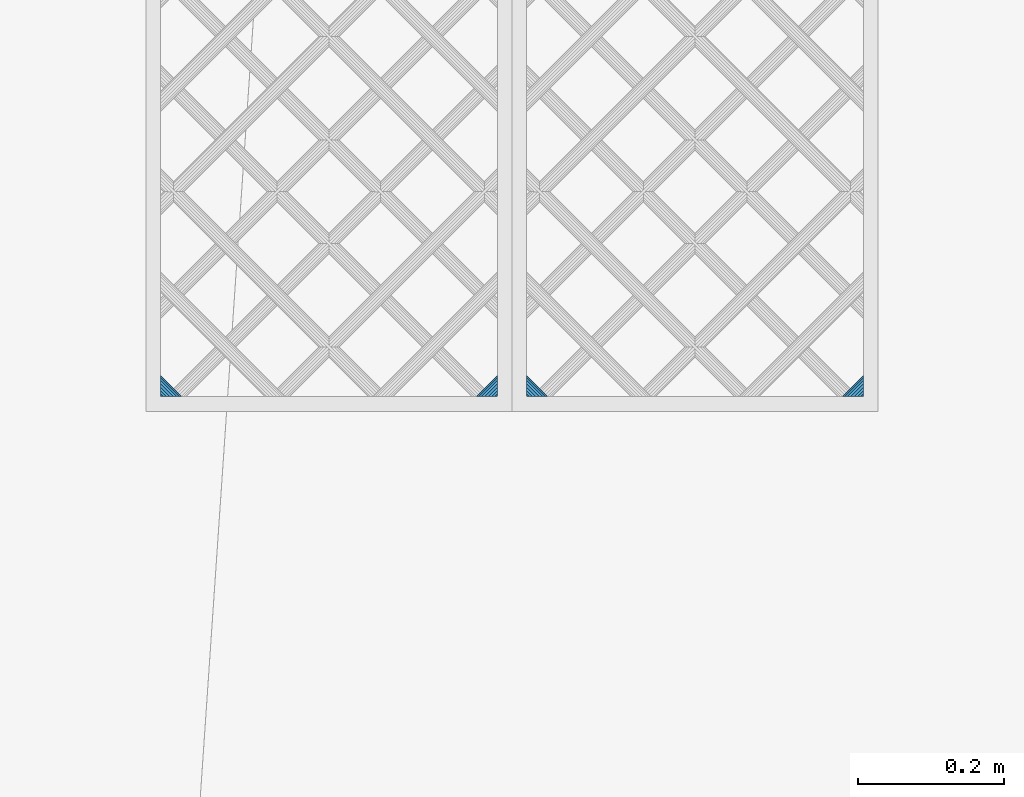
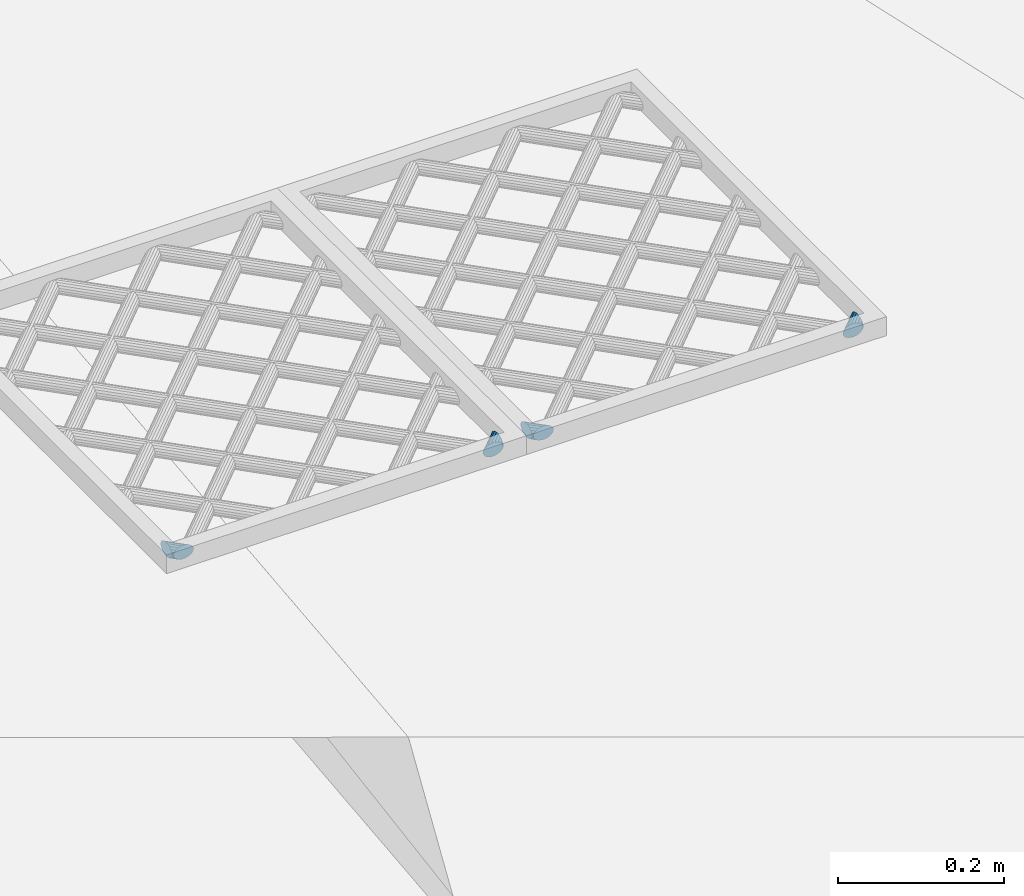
# One storey, part 86 of 133: 4 members, 2 elements without a shape of their own.
"""IFC2X3 building model written with IfcOpenShell, lengths in centimetres."""

from ifc_helpers import new_model, entity, si_unit, converted_unit, direction, frame, origin, origin_with_axes, place, context, subcontext, project, spatial, faceted_brep, material, type_object, element, aggregate, save


model = new_model("IFC2X3")

# Units and contexts
model_context = context("Model", 3, precision=0.0001, world=origin(), true_north=direction((0.225632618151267, 0.974212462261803, 0.0)))
body_context = subcontext(model_context, "Body", "Model", "MODEL_VIEW")
ifc_project = project(units=[si_unit("LENGTHUNIT", "METRE", prefix="CENTI"), si_unit("AREAUNIT", "SQUARE_METRE", prefix="CENTI"), si_unit("VOLUMEUNIT", "CUBIC_METRE", prefix="CENTI"), converted_unit("PLANEANGLEUNIT", "DEGREE", entity("IfcRatioMeasure", 0.0174532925), si_unit("PLANEANGLEUNIT", "RADIAN"), dimensions=[0, 0, 0, 0, 0, 0, 0])], contexts=[model_context])

# Site, building, storey
site_placement = place(None, origin_with_axes())
site = spatial("IfcSite", under=ifc_project, at=site_placement, Name="Default Site", CompositionType="ELEMENT")
building_placement = place(site_placement, origin_with_axes())
building = spatial("IfcBuilding", under=site, at=building_placement, Name="Default Building", CompositionType="ELEMENT")
storey_placement = place(building_placement, frame((0.0, 0.0, -291.400371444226), z_axis=(0.0, 0.0, 1.0), x_axis=(1.0, 0.0, 0.0)))
storey = spatial("IfcBuildingStorey", under=building, at=storey_placement, Name="Rez-de-Jardin", CompositionType="ELEMENT", Elevation=-291.400371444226)

# Assembly, members
building_element_proxy_type = type_object("IfcBuildingElementProxyType", Name="Type Object", PredefinedType="NOTDEFINED")
assembly_1_placement = place(storey_placement, frame((-26.2717802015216, 1298.33524038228, 113.0), z_axis=(0.0, 1.0, -2.38697950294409e-15), x_axis=(1.0, 0.0, 0.0)))
assembly_1 = element("IfcElementAssembly", 1, at=assembly_1_placement, inside=storey, type_object=building_element_proxy_type, Name="Panneau 326484", ObjectType="Precast panel", PredefinedType="USERDEFINED")
ifc_material = material(Name="Aluminium satiné")
member_1_placement = place(assembly_1_placement, frame((47.999998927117, 0.342020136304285, 2.17359922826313), z_axis=(0.999999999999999, 0.0, 0.0), x_axis=(0.0, -0.774596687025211, -0.632455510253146)))
member_1 = element("IfcMember", 2, at=member_1_placement, material=ifc_material, Name="4294966894", context=body_context, shape_type="Brep", body=[
    faceted_brep([(2.48065457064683e-13, -8.11850586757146e-14, 0.0), (-0.388289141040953, -8.04911692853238e-14, 0.0), (-0.799165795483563, -0.150249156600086, 0.0), (-1.18307220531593, -0.432625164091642, 0.0), (-1.49370349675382, -0.813069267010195, 0.0), (-1.69359292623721, -1.24569426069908, 0.0), (-1.75863119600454, -1.67831950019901, 0.0), (-1.68097334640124, -2.05876360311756, 0.0), (-1.46998602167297, -2.34113928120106, 0.0), (-1.15111801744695, -2.49138864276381, 0.0), (-0.762828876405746, -2.49138864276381, 0.0), (-0.351952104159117, -2.34113934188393, 0.0), (0.0319541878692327, -2.05876347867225, 0.0), (0.342585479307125, -1.67831937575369, 0.0), (0.542475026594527, -1.24569423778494, 0.0), (0.607513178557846, -0.813069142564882, 0.0), (0.529855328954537, -0.432625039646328, 0.0), (0.318868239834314, -0.150249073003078, 0.0), (0.374721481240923, -0.0818430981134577, -0.0883102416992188), (0.639649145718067, -0.298155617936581, -0.173598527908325), (0.872622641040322, -0.488377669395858, -0.419172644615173), (1.04554189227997, -0.629565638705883, -0.79541802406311), (1.13755032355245, -0.704690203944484, -1.25694870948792), (1.13755032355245, -0.704690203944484, -1.74809992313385), (1.04554189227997, -0.629565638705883, -2.20963060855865), (0.872622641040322, -0.488377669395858, -2.58587598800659), (0.639649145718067, -0.298155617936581, -2.83145010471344), (0.374721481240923, -0.0818430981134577, -2.91673839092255), (0.109793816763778, 0.134469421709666, -2.83145010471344), (-0.123179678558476, 0.324691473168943, -2.58587598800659), (-0.296098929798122, 0.465879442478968, -2.20963060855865), (-0.388107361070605, 0.541004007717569, -1.74809992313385), (-0.388107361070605, 0.541004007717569, -1.25694870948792), (-0.296098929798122, 0.465879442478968, -0.79541802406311), (-0.123179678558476, 0.324691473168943, -0.419172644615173), (0.109793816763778, 0.134469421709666, -0.173598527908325), (0.529855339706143, -0.432625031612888, 1.30225883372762e-08), (0.639648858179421, -0.29815583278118, -0.173598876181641), (0.374720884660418, -0.081843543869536, -0.0883109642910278), (0.607513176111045, -0.813069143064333, -1.93436607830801e-09), (0.872621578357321, -0.488377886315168, -0.419173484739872), (0.639648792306, -0.298155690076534, -0.173598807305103), (0.542475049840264, -1.24569424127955, 1.19949754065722e-08), (1.04554169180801, -0.629565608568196, -0.795418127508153), (0.872621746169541, -0.488377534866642, -0.419173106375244), (0.342585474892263, -1.67831937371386, -1.21215262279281e-09), (1.13755008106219, -0.704690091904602, -1.25694877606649), (1.04554177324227, -0.62956558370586, -0.795418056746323), (1.13755032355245, -0.704690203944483, -1.74809992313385), (1.13755032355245, -0.704690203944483, -1.25694870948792), (-0.35195207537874, -2.3411393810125, -1.21065570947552e-08), (1.04554212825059, -0.629565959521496, -2.20963070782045), (1.13755047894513, -0.704690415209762, -1.74809998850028), (-0.762828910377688, -2.49138854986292, 5.04749811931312e-08), (0.87262260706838, -0.488377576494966, -2.58587593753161), (1.04554209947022, -0.629566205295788, -2.2096309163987), (-1.15111801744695, -2.49138864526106, -1.93436629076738e-09), (0.639649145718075, -0.298156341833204, -2.83145066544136), (-1.46998609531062, -2.34113943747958, -1.6762536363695e-07), (0.374721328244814, -0.0818434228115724, -2.91673873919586), (0.639648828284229, -0.298156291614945, -2.83145082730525), (-1.68097320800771, -2.05876349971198, 1.6762536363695e-07), (0.109793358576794, 0.134469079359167, -2.83145065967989), (0.374721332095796, -0.0818432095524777, -2.9167385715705), (-1.75863119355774, -1.67831949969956, 1.93436650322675e-09), (-0.123179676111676, 0.324691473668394, -2.58587598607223), (0.109793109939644, 0.13446927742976, -2.831450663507), (-1.69359302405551, -1.24569424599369, -5.04749813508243e-08), (-0.296099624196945, 0.465879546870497, -2.20963096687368), (-0.123179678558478, 0.324691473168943, -2.58587598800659), (-1.49370345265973, -0.813069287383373, 1.2106556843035e-08), (-0.388107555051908, 0.541004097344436, -1.74809997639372), (-0.296099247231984, 0.465879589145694, -2.20963069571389), (-0.388107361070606, 0.541004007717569, -1.25694870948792), (-0.388107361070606, 0.541004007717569, -1.74809992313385), (-0.799165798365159, -0.150249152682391, 1.21215254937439e-09), (-0.296098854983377, 0.465879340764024, -0.795418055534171), (-0.388107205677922, 0.54100379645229, -1.25694877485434), (-0.388289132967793, -2.20772336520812e-08, -1.19949752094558e-08), (-0.123179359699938, 0.324690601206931, -0.41917311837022), (-0.296098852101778, 0.465879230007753, -0.795418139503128), (2.48039759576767e-13, 2.4971744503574e-09, 1.93436592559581e-09), (0.109793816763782, 0.134469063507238, -0.173598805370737), (-0.123179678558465, 0.324690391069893, -0.419173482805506), (0.318868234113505, -0.150249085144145, -1.30225882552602e-08), (0.374721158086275, -0.0818437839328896, -0.0883109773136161), (0.109793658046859, 0.134469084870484, -0.17359888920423)], [[[0, 1, 2, 3, 4, 5, 6, 7, 8, 9, 10, 11, 12, 13, 14, 15, 16, 17]], [[18, 19, 20, 21, 22, 23, 24, 25, 26, 27, 28, 29, 30, 31, 32, 33, 34, 35]], [[17, 36, 37, 38]], [[16, 39, 40, 41]], [[15, 42, 43, 44]], [[14, 45, 46, 47]], [[13, 12, 48, 49]], [[12, 50, 51, 52]], [[11, 53, 54, 55]], [[10, 56, 57, 25]], [[9, 58, 59, 60]], [[8, 61, 62, 63]], [[7, 64, 65, 66]], [[6, 67, 68, 69]], [[5, 70, 71, 72]], [[4, 3, 73, 74]], [[3, 75, 76, 77]], [[2, 78, 79, 80]], [[1, 81, 82, 83]], [[0, 84, 85, 86]]]),
])
member_2_placement = place(assembly_1_placement, frame((2.17359922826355, 0.342020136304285, 1.99999995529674), z_axis=(1.16937634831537e-15, 1.43218776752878e-15, -1.0), x_axis=(-0.632455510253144, -0.774596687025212, -1.84894641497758e-15)))
member_2 = element("IfcMember", 3, at=member_2_placement, material=ifc_material, Name="4294966886", context=body_context, shape_type="Brep", body=[
    faceted_brep([(3.81639164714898e-15, -1.87350135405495e-14, 1.73472347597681e-15), (-0.388289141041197, -1.87350135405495e-14, 2.45264929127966e-15), (-0.799165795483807, -0.150249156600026, 3.2123382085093e-15), (-1.18307220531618, -0.432625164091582, 3.92216058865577e-15), (-1.49370349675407, -0.813069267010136, 4.49650120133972e-15), (-1.69359292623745, -1.24569426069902, 4.86608604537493e-15), (-1.75863119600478, -1.67831950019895, 4.9863383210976e-15), (-1.68097334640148, -2.0587636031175, 4.84275311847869e-15), (-1.46998602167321, -2.341139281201, 4.45264886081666e-15), (-1.15111801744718, -2.49138864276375, 3.86307900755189e-15), (-0.762828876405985, -2.49138864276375, 3.14515319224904e-15), (-0.351952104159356, -2.34113934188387, 2.38546405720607e-15), (0.0319541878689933, -2.05876347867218, 1.67564189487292e-15), (0.342585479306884, -1.67831937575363, 1.10130128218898e-15), (0.542475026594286, -1.24569423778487, 7.31716220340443e-16), (0.607513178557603, -0.813069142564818, 6.11464162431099e-16), (0.529855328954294, -0.432625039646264, 7.55049365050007e-16), (0.31886823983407, -0.150249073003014, 1.1451531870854e-15), (0.374721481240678, -0.0818430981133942, -0.0883117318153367), (0.639649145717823, -0.298155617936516, -0.173599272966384), (0.872622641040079, -0.488377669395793, -0.419174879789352), (1.04554189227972, -0.629565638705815, -0.795418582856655), (1.13755032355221, -0.704690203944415, -1.25694982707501), (1.13755032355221, -0.704690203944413, -1.74810104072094), (1.04554189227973, -0.629565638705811, -2.20963209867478), (0.87262264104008, -0.488377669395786, -2.58587598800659), (0.639649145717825, -0.298155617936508, -2.83145159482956), (0.374721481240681, -0.0818430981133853, -2.91673876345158), (0.109793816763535, 0.134469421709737, -2.83145159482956), (-0.12317967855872, 0.324691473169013, -2.58587598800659), (-0.296098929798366, 0.465879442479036, -2.20963209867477), (-0.38810736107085, 0.541004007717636, -1.74810104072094), (-0.38810736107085, 0.541004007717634, -1.256949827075), (-0.296098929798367, 0.465879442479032, -0.795418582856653), (-0.123179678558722, 0.324691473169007, -0.41917487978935), (0.109793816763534, 0.134469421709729, -0.173599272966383), (0.31886823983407, -0.150249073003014, 1.38777878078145e-15), (0.529855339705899, -0.432625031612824, 1.30225894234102e-08), (0.639649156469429, -0.298155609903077, -0.173599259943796), (0.374721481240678, -0.0818430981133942, -0.0883117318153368), (0.529855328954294, -0.432625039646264, 1.04083408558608e-15), (0.607513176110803, -0.813069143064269, -1.93436525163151e-09), (0.872622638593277, -0.488377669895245, -0.419174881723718), (0.607513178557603, -0.813069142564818, 6.93889390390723e-16), (0.542475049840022, -1.24569424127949, 1.19949761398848e-08), (1.04554191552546, -0.629565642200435, -0.79541857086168), (0.872622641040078, -0.488377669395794, -0.419174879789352), (0.542475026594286, -1.24569423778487, 6.93889390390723e-16), (0.342585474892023, -1.67831937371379, -1.21215119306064e-09), (1.13755031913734, -0.704690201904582, -1.25694982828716), (1.04554189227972, -0.629565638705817, -0.795418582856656), (0.342585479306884, -1.67831937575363, 1.38777878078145e-15), (0.0319541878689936, -2.05876347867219, 2.08166817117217e-15), (1.1375503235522, -0.704690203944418, -1.74810104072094), (1.13755032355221, -0.704690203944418, -1.25694982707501), (0.0319541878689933, -2.05876347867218, 2.08166817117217e-15), (-0.351952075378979, -2.34113938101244, -1.21065545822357e-08), (1.0455419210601, -0.629565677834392, -2.20963211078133), (-0.351952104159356, -2.34113934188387, 2.42861286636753e-15), (-0.762828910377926, -2.49138854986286, 5.04749843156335e-08), (0.872622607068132, -0.488377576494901, -2.58587593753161), (1.04554189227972, -0.629565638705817, -2.20963209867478), (-0.762828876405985, -2.49138864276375, 3.12250225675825e-15), (-1.15111801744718, -2.491388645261, -1.93436191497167e-09), (0.639649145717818, -0.298155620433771, -2.83145159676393), (0.872622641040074, -0.488377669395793, -2.58587598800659), (-1.15111801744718, -2.49138864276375, 4.16333634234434e-15), (-1.46998609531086, -2.34113943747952, -1.67625359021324e-07), (0.374721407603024, -0.0818432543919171, -2.91673893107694), (0.639649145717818, -0.298155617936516, -2.83145159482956), (-1.46998602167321, -2.341139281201, 4.85722573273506e-15), (-1.68097320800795, -2.05876349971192, 1.67625368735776e-07), (0.109793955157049, 0.134469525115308, -2.83145142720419), (0.374721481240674, -0.081843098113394, -2.91673876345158), (-1.68097334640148, -2.0587636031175, 4.85722573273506e-15), (-1.75863119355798, -1.6783194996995, 1.93437128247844e-09), (-0.123179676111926, 0.324691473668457, -2.58587598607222), (0.109793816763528, 0.134469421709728, -2.83145159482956), (-1.75863119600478, -1.67831950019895, 5.20417042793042e-15), (-1.69359302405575, -1.24569424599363, -5.04749759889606e-08), (-0.296099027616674, 0.465879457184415, -2.20963214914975), (-0.123179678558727, 0.324691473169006, -2.58587598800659), (-1.69359292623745, -1.24569426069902, 5.20417042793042e-15), (-1.49370345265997, -0.813069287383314, 1.2106561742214e-08), (-0.388107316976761, 0.541003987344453, -1.74810102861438), (-0.296098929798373, 0.46587944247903, -2.20963209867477), (-1.49370349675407, -0.813069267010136, 4.85722573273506e-15), (-1.18307220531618, -0.432625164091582, 4.16333634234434e-15), (-0.388107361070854, 0.541004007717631, -1.256949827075), (-0.388107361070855, 0.541004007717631, -1.74810104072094), (-0.799165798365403, -0.15024915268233, 1.2121561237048e-09), (-0.296098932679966, 0.465879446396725, -0.7954185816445), (-0.799165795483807, -0.150249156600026, 3.46944695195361e-15), (-0.388289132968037, -2.20771720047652e-08, -1.19949724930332e-08), (-0.123179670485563, 0.324691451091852, -0.419174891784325), (-0.296098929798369, 0.46587944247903, -0.795418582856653), (-0.388289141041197, -1.87350135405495e-14, 2.77555756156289e-15), (3.7906941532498e-15, 2.49723722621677e-09, 1.93436791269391e-09), (0.109793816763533, 0.134469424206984, -0.173599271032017), (-0.123179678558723, 0.324691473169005, -0.41917487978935), (0.318868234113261, -0.150249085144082, -1.30225870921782e-08), (0.374721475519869, -0.081843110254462, -0.0883117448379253), (0.109793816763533, 0.134469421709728, -0.173599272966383)], [[[0, 1, 2, 3, 4, 5, 6, 7, 8, 9, 10, 11, 12, 13, 14, 15, 16, 17]], [[18, 19, 20, 21, 22, 23, 24, 25, 26, 27, 28, 29, 30, 31, 32, 33, 34, 35]], [[36, 37, 38, 39]], [[40, 41, 42, 19]], [[43, 44, 45, 46]], [[47, 48, 49, 50]], [[51, 52, 53, 54]], [[55, 56, 57, 53]], [[58, 59, 60, 61]], [[62, 63, 64, 65]], [[66, 67, 68, 69]], [[70, 71, 72, 73]], [[74, 75, 76, 77]], [[78, 79, 80, 81]], [[82, 83, 84, 85]], [[86, 87, 88, 89]], [[87, 90, 91, 88]], [[92, 93, 94, 95]], [[96, 97, 98, 99]], [[0, 100, 101, 102]]]),
])
aggregate(assembly_1, [member_1, member_2])

assembly_2_placement = place(storey_placement, frame((23.728219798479, 1298.33524038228, 113.0), z_axis=(0.0, 1.0, -2.38697950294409e-15), x_axis=(1.0, 0.0, 0.0)))
assembly_2 = element("IfcElementAssembly", 4, at=assembly_2_placement, inside=storey, type_object=building_element_proxy_type, Name="Panneau 326485", ObjectType="Precast panel", PredefinedType="USERDEFINED")
member_3_placement = place(assembly_2_placement, frame((47.9999989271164, 0.3420201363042, 2.1735992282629), z_axis=(0.999999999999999, 0.0, 0.0), x_axis=(0.0, -0.774596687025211, -0.632455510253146)))
member_3 = element("IfcMember", 5, at=member_3_placement, material=ifc_material, Name="4294966877", context=body_context, shape_type="Brep", body=[
    faceted_brep([(7.04297731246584e-14, -8.11850586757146e-14, 0.0), (-0.38828914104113, -8.04911692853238e-14, 0.0), (-0.79916579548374, -0.150249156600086, 0.0), (-1.18307220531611, -0.432625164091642, 0.0), (-1.493703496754, -0.813069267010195, 0.0), (-1.69359292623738, -1.24569426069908, 0.0), (-1.75863119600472, -1.67831950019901, 0.0), (-1.68097334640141, -2.05876360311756, 0.0), (-1.46998602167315, -2.34113928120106, 0.0), (-1.15111801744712, -2.49138864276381, 0.0), (-0.762828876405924, -2.49138864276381, 0.0), (-0.351952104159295, -2.34113934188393, 0.0), (0.031954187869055, -2.05876347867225, 0.0), (0.342585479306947, -1.67831937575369, 0.0), (0.54247502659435, -1.24569423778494, 0.0), (0.607513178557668, -0.813069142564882, 0.0), (0.529855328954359, -0.432625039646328, 0.0), (0.318868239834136, -0.150249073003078, 0.0), (0.374721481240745, -0.0818430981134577, -0.0883102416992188), (0.639649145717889, -0.298155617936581, -0.173598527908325), (0.872622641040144, -0.488377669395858, -0.419172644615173), (1.04554189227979, -0.629565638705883, -0.79541802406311), (1.13755032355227, -0.704690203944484, -1.25694870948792), (1.13755032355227, -0.704690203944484, -1.74809992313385), (1.04554189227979, -0.629565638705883, -2.20963060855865), (0.872622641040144, -0.488377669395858, -2.58587598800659), (0.639649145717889, -0.298155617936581, -2.83145010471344), (0.374721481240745, -0.0818430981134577, -2.91673839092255), (0.109793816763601, 0.134469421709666, -2.83145010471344), (-0.123179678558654, 0.324691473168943, -2.58587598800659), (-0.2960989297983, 0.465879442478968, -2.20963060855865), (-0.388107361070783, 0.541004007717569, -1.74809992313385), (-0.388107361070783, 0.541004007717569, -1.25694870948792), (-0.2960989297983, 0.465879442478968, -0.79541802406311), (-0.123179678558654, 0.324691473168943, -0.419172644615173), (0.109793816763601, 0.134469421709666, -0.173598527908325), (0.529855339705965, -0.432625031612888, 1.30225883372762e-08), (0.639648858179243, -0.29815583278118, -0.173598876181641), (0.374720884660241, -0.081843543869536, -0.0883109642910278), (0.607513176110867, -0.813069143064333, -1.93436602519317e-09), (0.872621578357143, -0.488377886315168, -0.419173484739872), (0.639648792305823, -0.298155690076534, -0.173598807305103), (0.542475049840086, -1.24569424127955, 1.19949754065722e-08), (1.04554169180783, -0.629565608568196, -0.795418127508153), (0.872621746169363, -0.488377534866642, -0.419173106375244), (0.342585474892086, -1.67831937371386, -1.21215262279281e-09), (1.13755008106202, -0.704690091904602, -1.25694877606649), (1.04554177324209, -0.62956558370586, -0.795418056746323), (1.13755032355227, -0.704690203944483, -1.74809992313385), (1.13755032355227, -0.704690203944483, -1.25694870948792), (-0.351952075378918, -2.3411393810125, -1.21065570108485e-08), (1.04554212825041, -0.629565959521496, -2.20963070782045), (1.13755047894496, -0.704690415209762, -1.74809998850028), (-0.762828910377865, -2.49138854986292, 5.04749813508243e-08), (0.872622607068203, -0.488377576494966, -2.58587593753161), (1.04554209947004, -0.629566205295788, -2.2096309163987), (-1.15111801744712, -2.49138864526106, -1.93436629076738e-09), (0.639649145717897, -0.298156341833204, -2.83145066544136), (-1.4699860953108, -2.34113943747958, -1.6762536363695e-07), (0.374721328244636, -0.0818434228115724, -2.91673873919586), (0.639648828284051, -0.298156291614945, -2.83145082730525), (-1.68097320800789, -2.05876349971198, 1.6762536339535e-07), (0.109793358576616, 0.134469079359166, -2.83145065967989), (0.374721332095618, -0.0818432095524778, -2.9167385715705), (-1.75863119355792, -1.67831949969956, 1.93436650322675e-09), (-0.123179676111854, 0.324691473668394, -2.58587598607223), (0.109793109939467, 0.13446927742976, -2.831450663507), (-1.69359302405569, -1.24569424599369, -5.04749813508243e-08), (-0.296099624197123, 0.465879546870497, -2.20963096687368), (-0.123179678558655, 0.324691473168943, -2.58587598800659), (-1.49370345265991, -0.813069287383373, 1.2106556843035e-08), (-0.388107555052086, 0.541004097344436, -1.74809997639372), (-0.296099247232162, 0.465879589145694, -2.20963069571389), (-0.799165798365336, -0.150249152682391, 1.21215254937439e-09), (-0.296098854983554, 0.465879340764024, -0.795418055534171), (-0.388107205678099, 0.54100379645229, -1.25694877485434), (-0.388289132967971, -2.20772336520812e-08, -1.19949752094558e-08), (-0.123179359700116, 0.324690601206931, -0.41917311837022), (-0.296098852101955, 0.465879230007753, -0.795418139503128), (7.04040756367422e-14, 2.4971744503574e-09, 1.93436592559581e-09), (0.109793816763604, 0.134469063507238, -0.173598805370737), (-0.123179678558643, 0.324690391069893, -0.419173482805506), (0.318868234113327, -0.150249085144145, -1.30225882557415e-08), (0.374721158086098, -0.0818437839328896, -0.0883109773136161), (0.109793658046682, 0.134469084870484, -0.17359888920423)], [[[0, 1, 2, 3, 4, 5, 6, 7, 8, 9, 10, 11, 12, 13, 14, 15, 16, 17]], [[18, 19, 20, 21, 22, 23, 24, 25, 26, 27, 28, 29, 30, 31, 32, 33, 34, 35]], [[17, 36, 37, 38]], [[16, 39, 40, 41]], [[15, 42, 43, 44]], [[14, 45, 46, 47]], [[13, 12, 48, 49]], [[12, 50, 51, 52]], [[11, 53, 54, 55]], [[10, 56, 57, 25]], [[9, 58, 59, 60]], [[8, 61, 62, 63]], [[7, 64, 65, 66]], [[6, 67, 68, 69]], [[5, 70, 71, 72]], [[4, 3, 32, 31]], [[3, 73, 74, 75]], [[2, 76, 77, 78]], [[1, 79, 80, 81]], [[0, 82, 83, 84]]]),
])
member_4_placement = place(assembly_2_placement, frame((2.17359922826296, 0.3420201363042, 1.99999995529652), z_axis=(1.16937634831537e-15, 1.43218776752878e-15, -1.0), x_axis=(-0.632455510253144, -0.774596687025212, -1.84894641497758e-15)))
member_4 = element("IfcMember", 6, at=member_4_placement, material=ifc_material, Name="4294966869", context=body_context, shape_type="Brep", body=[
    faceted_brep([(-1.83880688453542e-14, -1.87350135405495e-14, 1.73472347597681e-15), (-0.388289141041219, -1.87350135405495e-14, 2.45264929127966e-15), (-0.799165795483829, -0.150249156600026, 3.2123382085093e-15), (-1.1830722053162, -0.432625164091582, 3.92216058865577e-15), (-1.49370349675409, -0.813069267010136, 4.49650120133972e-15), (-1.69359292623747, -1.24569426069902, 4.86608604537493e-15), (-1.75863119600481, -1.67831950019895, 4.9863383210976e-15), (-1.6809733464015, -2.0587636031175, 4.84275311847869e-15), (-1.46998602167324, -2.341139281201, 4.45264886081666e-15), (-1.15111801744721, -2.49138864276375, 3.86307900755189e-15), (-0.762828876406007, -2.49138864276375, 3.14515319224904e-15), (-0.351952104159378, -2.34113934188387, 2.38546405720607e-15), (0.0319541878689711, -2.05876347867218, 1.67564189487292e-15), (0.342585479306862, -1.67831937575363, 1.10130128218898e-15), (0.542475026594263, -1.24569423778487, 7.31716220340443e-16), (0.607513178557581, -0.813069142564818, 6.11464162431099e-16), (0.529855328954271, -0.432625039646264, 7.55049365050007e-16), (0.318868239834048, -0.150249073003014, 1.1451531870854e-15), (0.374721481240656, -0.0818430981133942, -0.0883117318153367), (0.639649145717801, -0.298155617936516, -0.173599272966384), (0.872622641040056, -0.488377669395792, -0.419174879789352), (1.0455418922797, -0.629565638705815, -0.795418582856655), (1.13755032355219, -0.704690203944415, -1.25694982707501), (1.13755032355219, -0.704690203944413, -1.74810104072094), (1.0455418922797, -0.629565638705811, -2.20963209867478), (0.872622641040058, -0.488377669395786, -2.58587598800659), (0.639649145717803, -0.298155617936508, -2.83145159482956), (0.374721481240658, -0.0818430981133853, -2.91673876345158), (0.109793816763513, 0.134469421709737, -2.83145159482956), (-0.123179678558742, 0.324691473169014, -2.58587598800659), (-0.296098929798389, 0.465879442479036, -2.20963209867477), (-0.388107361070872, 0.541004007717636, -1.74810104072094), (-0.388107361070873, 0.541004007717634, -1.256949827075), (-0.29609892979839, 0.465879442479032, -0.795418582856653), (-0.123179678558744, 0.324691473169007, -0.41917487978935), (0.109793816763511, 0.134469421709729, -0.173599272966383), (0.318868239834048, -0.150249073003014, 1.38777878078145e-15), (0.529855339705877, -0.432625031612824, 1.30225893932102e-08), (0.639649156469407, -0.298155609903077, -0.173599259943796), (0.374721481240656, -0.0818430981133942, -0.0883117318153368), (0.529855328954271, -0.432625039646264, 1.04083408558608e-15), (0.60751317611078, -0.813069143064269, -1.93436525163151e-09), (0.872622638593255, -0.488377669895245, -0.419174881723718), (0.607513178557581, -0.813069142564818, 6.93889390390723e-16), (0.54247504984, -1.24569424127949, 1.19949762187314e-08), (1.04554191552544, -0.629565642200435, -0.79541857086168), (0.872622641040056, -0.488377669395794, -0.419174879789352), (0.542475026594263, -1.24569423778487, 6.93889390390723e-16), (0.342585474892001, -1.67831937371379, -1.21215115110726e-09), (1.13755031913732, -0.704690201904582, -1.25694982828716), (1.0455418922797, -0.629565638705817, -0.795418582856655), (0.342585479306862, -1.67831937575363, 1.38777878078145e-15), (0.0319541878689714, -2.05876347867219, 2.08166817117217e-15), (1.13755032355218, -0.704690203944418, -1.74810104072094), (1.13755032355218, -0.704690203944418, -1.25694982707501), (0.0319541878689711, -2.05876347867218, 2.08166817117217e-15), (-0.351952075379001, -2.34113938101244, -1.21065545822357e-08), (1.04554192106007, -0.629565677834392, -2.20963211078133), (-0.351952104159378, -2.34113934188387, 2.42861286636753e-15), (-0.762828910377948, -2.49138854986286, 5.04749843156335e-08), (0.87262260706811, -0.488377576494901, -2.58587593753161), (1.0455418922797, -0.629565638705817, -2.20963209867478), (-0.762828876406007, -2.49138864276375, 3.12250225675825e-15), (-1.15111801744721, -2.491388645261, -1.93436191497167e-09), (0.639649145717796, -0.298155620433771, -2.83145159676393), (0.872622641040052, -0.488377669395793, -2.58587598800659), (-1.15111801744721, -2.49138864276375, 4.16333634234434e-15), (-1.46998609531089, -2.34113943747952, -1.67625359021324e-07), (0.374721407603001, -0.0818432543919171, -2.91673893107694), (0.639649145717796, -0.298155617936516, -2.83145159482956), (-1.46998602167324, -2.341139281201, 4.85722573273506e-15), (-1.68097320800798, -2.05876349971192, 1.67625368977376e-07), (0.109793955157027, 0.134469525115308, -2.83145142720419), (0.374721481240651, -0.0818430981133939, -2.91673876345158), (-1.6809733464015, -2.0587636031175, 4.85722573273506e-15), (-1.75863119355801, -1.6783194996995, 1.93437149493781e-09), (-0.123179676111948, 0.324691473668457, -2.58587598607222), (0.109793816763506, 0.134469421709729, -2.83145159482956), (-1.75863119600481, -1.67831950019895, 5.20417042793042e-15), (-1.69359302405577, -1.24569424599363, -5.04749760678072e-08), (-0.296099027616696, 0.465879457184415, -2.20963214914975), (-0.123179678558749, 0.324691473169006, -2.58587598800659), (-1.69359292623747, -1.24569426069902, 5.20417042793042e-15), (-1.49370345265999, -0.813069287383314, 1.2106561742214e-08), (-0.388107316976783, 0.541003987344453, -1.74810102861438), (-0.296098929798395, 0.46587944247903, -2.20963209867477), (-1.49370349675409, -0.813069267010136, 4.85722573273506e-15), (-1.1830722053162, -0.432625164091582, 4.16333634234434e-15), (-0.388107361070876, 0.541004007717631, -1.256949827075), (-0.388107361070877, 0.541004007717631, -1.74810104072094), (-0.799165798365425, -0.15024915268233, 1.2121561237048e-09), (-0.296098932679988, 0.465879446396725, -0.7954185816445), (-0.799165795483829, -0.150249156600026, 3.46944695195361e-15), (-0.388289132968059, -2.20771720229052e-08, -1.1994972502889e-08), (-0.123179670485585, 0.324691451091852, -0.419174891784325), (-0.296098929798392, 0.46587944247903, -0.795418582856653), (-0.388289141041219, -1.87350135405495e-14, 2.77555756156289e-15), (-1.84137663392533e-14, 2.49723722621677e-09, 1.93436791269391e-09), (0.109793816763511, 0.134469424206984, -0.173599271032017), (-0.123179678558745, 0.324691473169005, -0.41917487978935), (0.318868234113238, -0.150249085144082, -1.30225870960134e-08), (0.374721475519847, -0.081843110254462, -0.0883117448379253), (0.109793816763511, 0.134469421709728, -0.173599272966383)], [[[0, 1, 2, 3, 4, 5, 6, 7, 8, 9, 10, 11, 12, 13, 14, 15, 16, 17]], [[18, 19, 20, 21, 22, 23, 24, 25, 26, 27, 28, 29, 30, 31, 32, 33, 34, 35]], [[36, 37, 38, 39]], [[40, 41, 42, 19]], [[43, 44, 45, 46]], [[47, 48, 49, 50]], [[51, 52, 53, 54]], [[55, 56, 57, 53]], [[58, 59, 60, 61]], [[62, 63, 64, 65]], [[66, 67, 68, 69]], [[70, 71, 72, 73]], [[74, 75, 76, 77]], [[78, 79, 80, 81]], [[82, 83, 84, 85]], [[86, 87, 88, 89]], [[87, 90, 91, 88]], [[92, 93, 94, 95]], [[96, 97, 98, 99]], [[0, 100, 101, 102]]]),
])
aggregate(assembly_2, [member_3, member_4])

save(model, "model.ifc")
